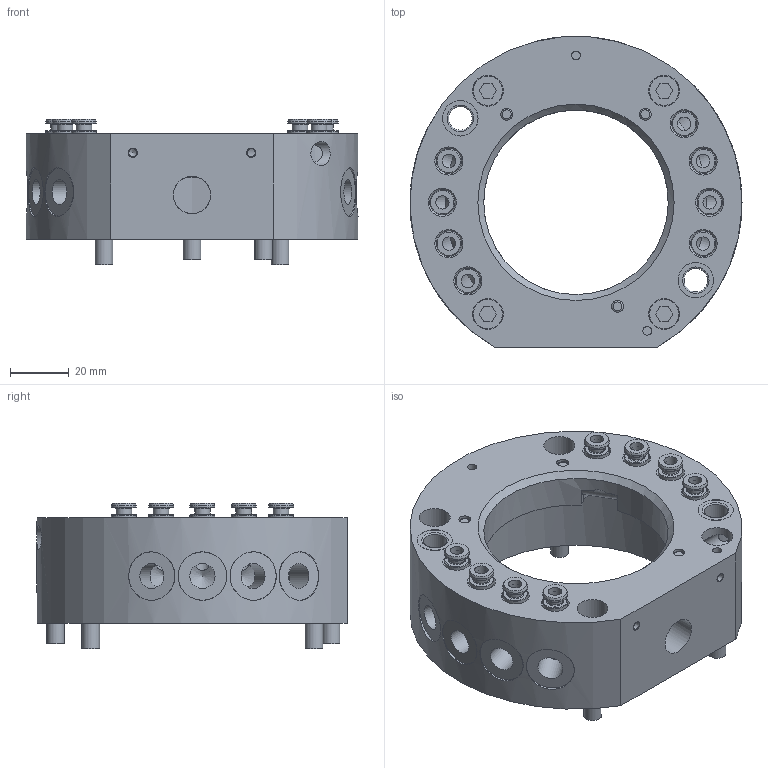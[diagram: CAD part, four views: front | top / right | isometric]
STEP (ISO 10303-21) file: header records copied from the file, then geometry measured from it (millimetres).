
FILE_DESCRIPTION(('Unknown'),'2;1');
FILE_NAME('','Unknown',('Unknown'),('Unknown'),'','Unknown','');
FILE_SCHEMA(('CONFIG_CONTROL_DESIGN'));
Length unit declared in the file: millimetre
Products named in the file (3): 98502-D1013
Bounding box: 113 x 105.65 x 49.57 mm (x, y, z)
Volume: 170002.3 mm3; surface area: 61398.9 mm2
Topology: 3 solids, 8 shells, 361 faces, 830 edges, 528 vertices
Faces by surface type: plane 147, cylinder 123, cone 50, torus 41
Full cylindrical faces by diameter (mm): 2.75 x2, 3 x7, 3.108 x2, 4 x2, 4.05 x3, 4.57 x8, 4.75 x8, 5.305 x8, 5.986 x2, 6 x6, 6.5 x4, 8 x5, 8.15 x3, 8.503 x16, 8.555 x8, 8.565 x8, 9 x2, 10 x4, 10.5 x4, 12.034 x2, 12.04 x2, 12.7 x1, 16.485 x4, 16.5 x4, 62.8 x1, 80.5 x1
Entity records: 17144 total; most frequent: CARTESIAN_POINT 10050, DIRECTION 1426, ORIENTED_EDGE 1048, EDGE_LOOP 685, AXIS2_PLACEMENT_3D 657, EDGE_CURVE 524, VERTEX_POINT 449, ADVANCED_FACE 360
